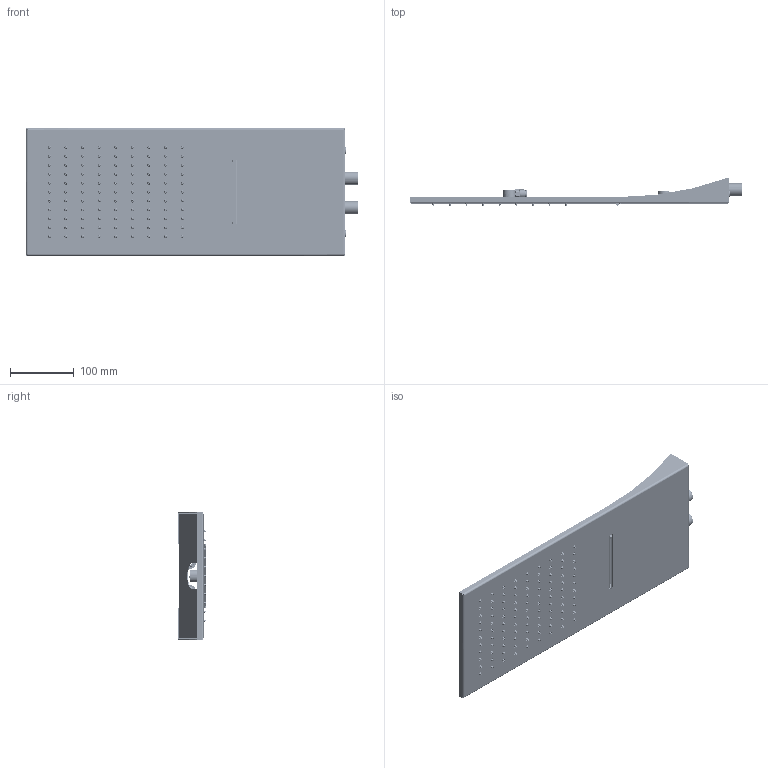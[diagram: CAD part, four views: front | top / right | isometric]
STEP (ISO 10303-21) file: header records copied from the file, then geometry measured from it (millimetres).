
FILE_DESCRIPTION (( 'STEP AP203' ), '1' );
FILE_NAME ('SOF62G.STEP', '2025-06-10T13:18:17', ( '' ), ( '' ), 'SwSTEP 2.0', 'SolidWorks 2024', '' );
FILE_SCHEMA (( 'CONFIG_CONTROL_DESIGN' ));
Length unit declared in the file: millimetre
Products named in the file (246): eBom-prt88.stp; eBom-prt169.stp; eBom-prt150.stp; eBom-prt58.stp; eBom-prt142.stp; eBom-prt157.stp; eBom-prt84.stp; T.RA013-10.stp; eBom-prt94.stp; eBom-prt30.stp; eBom-prt75.stp; eBom-prt81.stp; eBom-prt116.stp; eBom-prt171.stp; S.00244-6.stp; M_20933.stp; eBom-prt108.stp; eBom-prt173.stp; S.00244.stp; eBom-prt130.stp; eBom-prt62.stp; eBom-prt103.stp; eBom-prt207.stp; S.00103.stp; eBom-prt109.stp; eBom-prt120.stp; S.00108.stp; eBom-prt154.stp; eBom-prt37.stp; eBom-prt33.stp; eBom-prt181.stp; eBom-prt204.stp; eBom-prt102.stp; eBom-prt114.stp; eBom-prt193.stp; eBom-prt26.stp; eBom-prt183.stp; eBom-prt112.stp; eBom-prt156.stp; eBom-prt224.stp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
Assembly tree (149 placements, depth 5):
  eBom-prt88.stp
  eBom-prt169.stp
  eBom-prt150.stp
  eBom-prt58.stp
  eBom-prt142.stp
Bounding box: 520 x 43.89 x 200 mm (x, y, z)
Volume: 428809.2 mm3; surface area: 725873.7 mm2
Topology: 139 solids, 139 shells, 5329 faces, 11493 edges, 6778 vertices
Faces by surface type: torus 2228, cylinder 1850, plane 923, cone 296, sphere 18, bspline 14
Entity records: 59687 total; most frequent: CARTESIAN_POINT 7318, DIRECTION 6785, ORIENTED_EDGE 5888, EDGE_CURVE 2944, AXIS2_PLACEMENT_3D 2728, PERSON_AND_ORGANIZATION 2117, VERTEX_POINT 1899, EDGE_LOOP 1571
